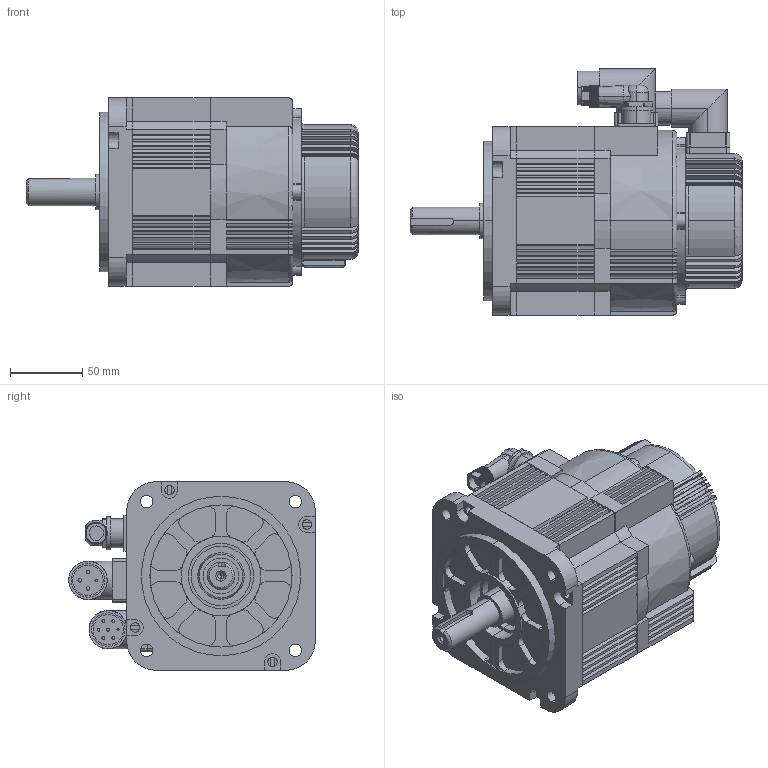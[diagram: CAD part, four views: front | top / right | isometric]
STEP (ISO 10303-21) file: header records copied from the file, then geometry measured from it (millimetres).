
FILE_DESCRIPTION (( 'STEP AP203' ), '1' );
FILE_NAME ('ACM13009H2E.STEP', '2021-04-02T09:17:46', ( '謂矨栲' ), ( 'Microsoft' ), 'SwSTEP 2.0', 'SolidWorks 2014', '' );
FILE_SCHEMA (( 'CONFIG_CONTROL_DESIGN' ));
Length unit declared in the file: millimetre
Products named in the file (1): ACM13009H2E
Bounding box: 229 x 170 x 130 mm (x, y, z)
Volume: 2242080 mm3; surface area: 191014.9 mm2
Topology: 1 solids, 1 shells, 1277 faces, 3618 edges, 2349 vertices
Faces by surface type: plane 684, cylinder 465, torus 71, cone 26, bspline 20, sphere 11
Entity records: 43892 total; most frequent: CARTESIAN_POINT 10491, ORIENTED_EDGE 7142, DIRECTION 6955, EDGE_CURVE 3571, AXIS2_PLACEMENT_3D 2380, VERTEX_POINT 2327, LINE 2195, VECTOR 2195
